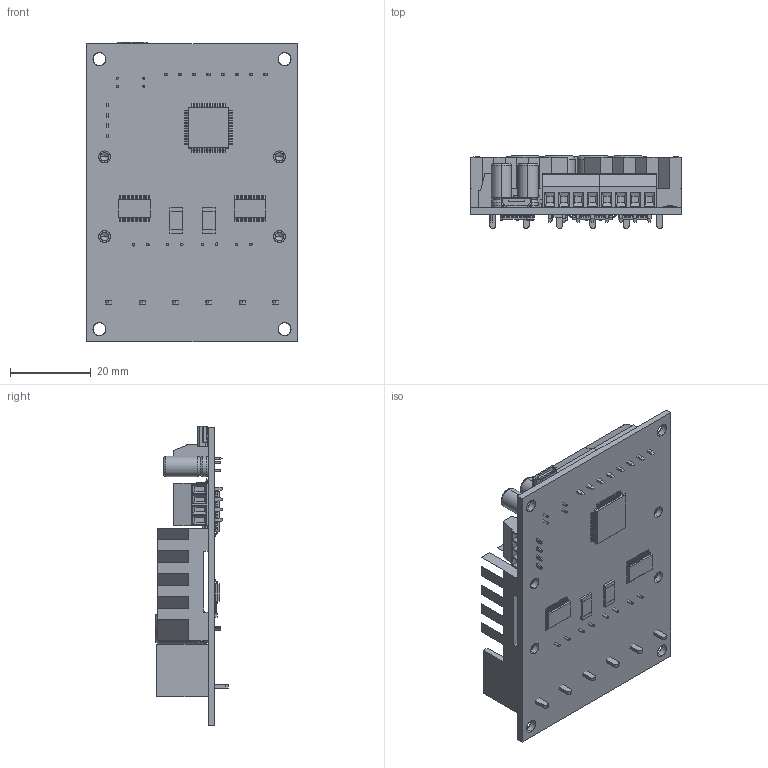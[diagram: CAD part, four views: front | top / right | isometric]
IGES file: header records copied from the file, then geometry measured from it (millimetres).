
Start section: SolidWorks IGES file using analytic representation for surfaces
Global section: file name: C:\Users\A Vinh\Desktop\MC45A-ST-V5.IGS; native system: SolidWorks 2013; preprocessor: SolidWorks 2013; author: A Vinh; date: 150701.130901; units: millimetre
Bounding box: 52.26 x 18 x 74.08 mm (x, y, z)
Surface area: 25684.3 mm2 (no closed solid volume)
Topology: 0 solids, 0 shells, 2575 faces, 20470 edges, 20450 vertices
Faces by surface type: bspline 1907, revolution 668
